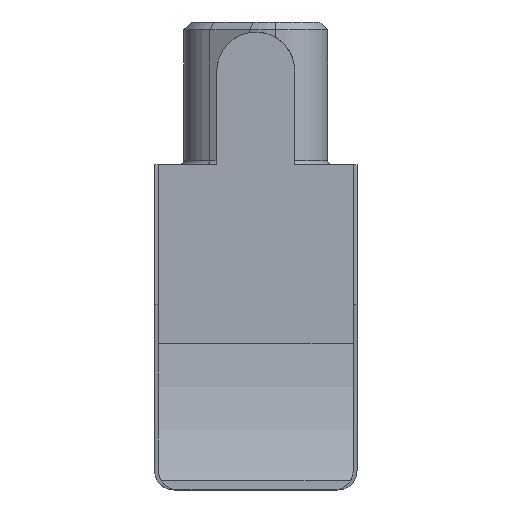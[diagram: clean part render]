
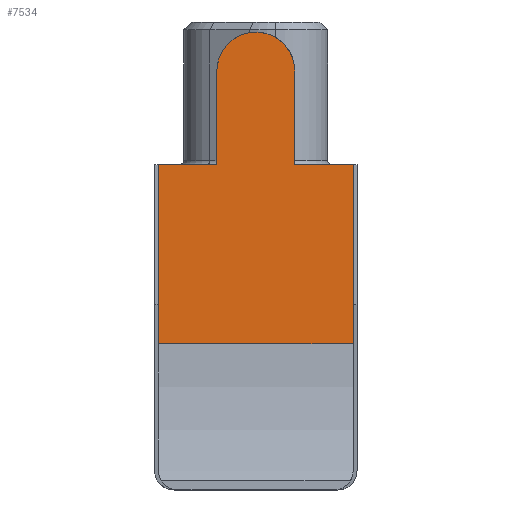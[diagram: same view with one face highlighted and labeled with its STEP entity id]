
A CAD part, left-side view. The second image highlights one B-rep face of the part: STEP entity #7534.
In plain terms, the highlighted planar face has unit normal (-1, 0, 0).
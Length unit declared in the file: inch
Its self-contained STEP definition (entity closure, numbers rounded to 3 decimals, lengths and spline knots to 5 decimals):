
#1139 = AXIS2_PLACEMENT_3D ( 'NONE', #20262, #20266, #20267 ) ;
#3000 = LINE ( 'NONE', #10167, #3116 ) ;
#3081 = LINE ( 'NONE', #10173, #3088 ) ;
#3086 = LINE ( 'NONE', #10175, #3094 ) ;
#3088 = VECTOR ( 'NONE', #10174, 39.37008 ) ;
#3090 = LINE ( 'NONE', #10177, #3100 ) ;
#3094 = VECTOR ( 'NONE', #10176, 39.37008 ) ;
#3097 = LINE ( 'NONE', #10179, #3105 ) ;
#3100 = VECTOR ( 'NONE', #10178, 39.37008 ) ;
#3102 = LINE ( 'NONE', #10181, #3111 ) ;
#3105 = VECTOR ( 'NONE', #10180, 39.37008 ) ;
#3107 = LINE ( 'NONE', #10166, #3122 ) ;
#3111 = VECTOR ( 'NONE', #10183, 39.37008 ) ;
#3116 = VECTOR ( 'NONE', #10184, 39.37008 ) ;
#3122 = VECTOR ( 'NONE', #10185, 39.37008 ) ;
#4430 = CARTESIAN_POINT ( 'NONE',  ( -0.6625, -0.05, 0.162 ) ) ;
#5035 = CARTESIAN_POINT ( 'NONE',  ( -0.6625, 0.05, 0.162 ) ) ;
#5503 = ORIENTED_EDGE ( 'NONE', *, *, #15348, .F. ) ;
#5504 = ORIENTED_EDGE ( 'NONE', *, *, #8693, .T. ) ;
#5505 = ORIENTED_EDGE ( 'NONE', *, *, #15349, .T. ) ;
#5506 = ORIENTED_EDGE ( 'NONE', *, *, #15350, .T. ) ;
#5507 = ORIENTED_EDGE ( 'NONE', *, *, #15351, .T. ) ;
#5508 = ORIENTED_EDGE ( 'NONE', *, *, #15352, .F. ) ;
#5509 = ORIENTED_EDGE ( 'NONE', *, *, #15353, .F. ) ;
#5510 = ORIENTED_EDGE ( 'NONE', *, *, #15354, .T. ) ;
#7534 = ADVANCED_FACE ( 'NONE', ( #26910 ), #20264, .F. ) ;
#8693 = EDGE_CURVE ( 'NONE', #13768, #14970, #29306, .T. ) ;
#10166 = CARTESIAN_POINT ( 'NONE',  ( -0.6625, -0.125, 0.042 ) ) ;
#10167 = CARTESIAN_POINT ( 'NONE',  ( -0.6625, -0.125, 0.042 ) ) ;
#10173 = CARTESIAN_POINT ( 'NONE',  ( -0.6625, -0.05, 0.042 ) ) ;
#10174 = DIRECTION ( 'NONE',  ( 0., 0., -1. ) ) ;
#10175 = CARTESIAN_POINT ( 'NONE',  ( -0.6625, 0.05, 0.042 ) ) ;
#10176 = DIRECTION ( 'NONE',  ( 0., 0., -1. ) ) ;
#10177 = CARTESIAN_POINT ( 'NONE',  ( -0.6625, -0.125, 0.042 ) ) ;
#10178 = DIRECTION ( 'NONE',  ( 0., 1., 0. ) ) ;
#10179 = CARTESIAN_POINT ( 'NONE',  ( -0.6625, 0.125, 0.042 ) ) ;
#10180 = DIRECTION ( 'NONE',  ( 0., 0., -1. ) ) ;
#10181 = CARTESIAN_POINT ( 'NONE',  ( -0.6625, -0.125, -0.188 ) ) ;
#10183 = DIRECTION ( 'NONE',  ( 0., 1., 0. ) ) ;
#10184 = DIRECTION ( 'NONE',  ( 0., 0., -1. ) ) ;
#10185 = DIRECTION ( 'NONE',  ( 0., 1., 0. ) ) ;
#12932 = VERTEX_POINT ( 'NONE', #25815 ) ;
#12933 = VERTEX_POINT ( 'NONE', #25816 ) ;
#12934 = VERTEX_POINT ( 'NONE', #25817 ) ;
#12938 = VERTEX_POINT ( 'NONE', #25821 ) ;
#12962 = VERTEX_POINT ( 'NONE', #25845 ) ;
#12966 = VERTEX_POINT ( 'NONE', #25849 ) ;
#13768 = VERTEX_POINT ( 'NONE', #4430 ) ;
#14970 = VERTEX_POINT ( 'NONE', #5035 ) ;
#15348 = EDGE_CURVE ( 'NONE', #13768, #12932, #3081, .T. ) ;
#15349 = EDGE_CURVE ( 'NONE', #14970, #12938, #3086, .T. ) ;
#15350 = EDGE_CURVE ( 'NONE', #12938, #12933, #3090, .T. ) ;
#15351 = EDGE_CURVE ( 'NONE', #12933, #12934, #3097, .T. ) ;
#15352 = EDGE_CURVE ( 'NONE', #12962, #12934, #3102, .T. ) ;
#15353 = EDGE_CURVE ( 'NONE', #12966, #12962, #3000, .T. ) ;
#15354 = EDGE_CURVE ( 'NONE', #12966, #12932, #3107, .T. ) ;
#18962 = EDGE_LOOP ( 'NONE', ( #5503, #5504, #5505, #5506, #5507, #5508, #5509, #5510 ) ) ;
#20262 = CARTESIAN_POINT ( 'NONE',  ( -0.6625, -0.125, 0.042 ) ) ;
#20264 = PLANE ( 'NONE',  #1139 ) ;
#20266 = DIRECTION ( 'NONE',  ( 1., 0., 0. ) ) ;
#20267 = DIRECTION ( 'NONE',  ( 0., 1., 0. ) ) ;
#23832 = CARTESIAN_POINT ( 'NONE',  ( -0.6625, 0., 0.162 ) ) ;
#23833 = DIRECTION ( 'NONE',  ( -1., 0., 0. ) ) ;
#23834 = DIRECTION ( 'NONE',  ( 0., -1., 0. ) ) ;
#25815 = CARTESIAN_POINT ( 'NONE',  ( -0.6625, -0.05, 0.042 ) ) ;
#25816 = CARTESIAN_POINT ( 'NONE',  ( -0.6625, 0.125, 0.042 ) ) ;
#25817 = CARTESIAN_POINT ( 'NONE',  ( -0.6625, 0.125, -0.188 ) ) ;
#25821 = CARTESIAN_POINT ( 'NONE',  ( -0.6625, 0.05, 0.042 ) ) ;
#25845 = CARTESIAN_POINT ( 'NONE',  ( -0.6625, -0.125, -0.188 ) ) ;
#25849 = CARTESIAN_POINT ( 'NONE',  ( -0.6625, -0.125, 0.042 ) ) ;
#26910 = FACE_OUTER_BOUND ( 'NONE', #18962, .T. ) ;
#29306 = CIRCLE ( 'NONE', #35735, 0.05 ) ;
#35735 = AXIS2_PLACEMENT_3D ( 'NONE', #23832, #23833, #23834 ) ;
